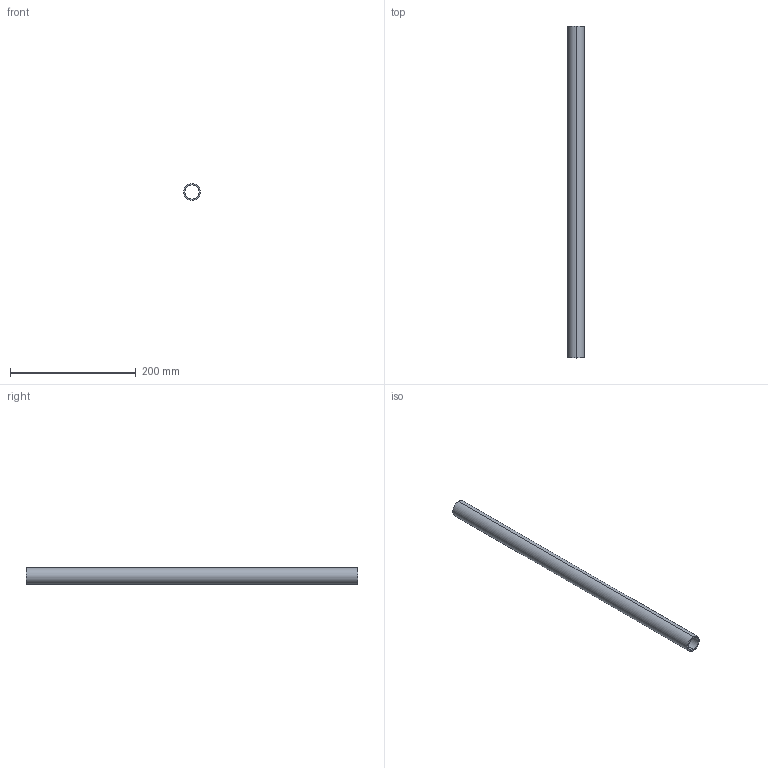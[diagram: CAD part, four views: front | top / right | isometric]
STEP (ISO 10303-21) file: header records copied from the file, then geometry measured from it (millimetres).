
FILE_DESCRIPTION (( 'STEP AP214' ), '1' );
FILE_NAME ('CCJ029-REP.346 - LISSE PLATEFORME SUPERIEURE A3-ESCALIER.STEP', '2025-11-04T13:26:46', ( '' ), ( '' ), 'SwSTEP 2.0', 'SolidWorks 2021', '' );
FILE_SCHEMA (( 'AUTOMOTIVE_DESIGN' ));
Length unit declared in the file: millimetre
Products named in the file (1): CCJ029-REP.346 - LISSE PLATEFORME SUPERIEURE A3-ESCALIER
Bounding box: 26.9 x 528 x 26.9 mm (x, y, z)
Volume: 93852.7 mm3; surface area: 81966.5 mm2
Topology: 1 solids, 1 shells, 6 faces, 12 edges, 8 vertices
Faces by surface type: cylinder 4, plane 2
Entity records: 202 total; most frequent: DIRECTION 34, CARTESIAN_POINT 27, ORIENTED_EDGE 24, AXIS2_PLACEMENT_3D 15, EDGE_CURVE 12, EDGE_LOOP 8, CIRCLE 8, VERTEX_POINT 8
